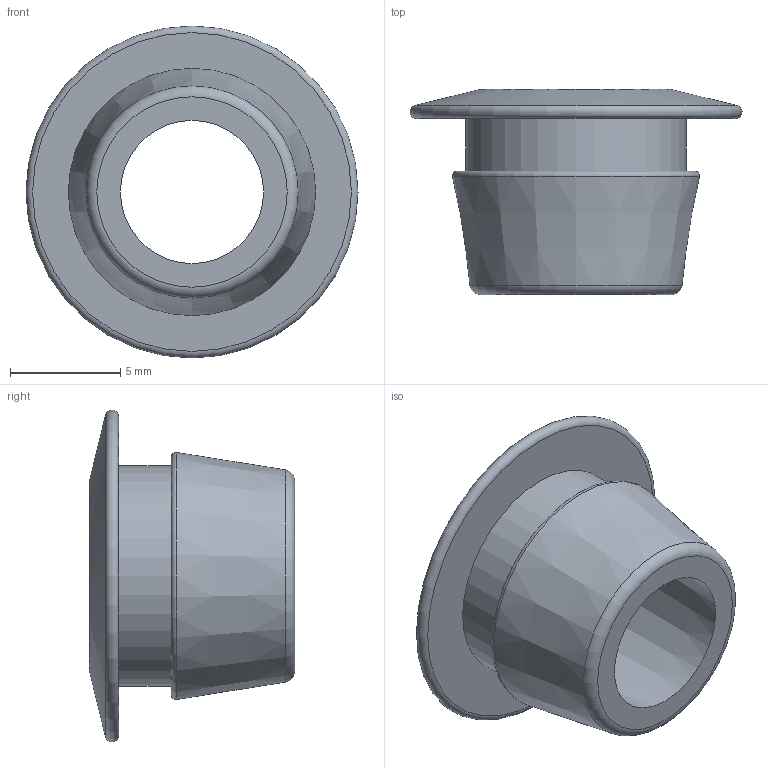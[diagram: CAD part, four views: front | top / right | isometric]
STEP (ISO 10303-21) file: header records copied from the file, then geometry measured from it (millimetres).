
FILE_DESCRIPTION (( 'STEP AP214' ), '1' );
FILE_NAME ('L16107.step', '2024-12-03T16:21:24', ( '' ), ( '' ), 'SwSTEP 2.0', 'SolidWorks 2023', '' );
FILE_SCHEMA (( 'AUTOMOTIVE_DESIGN' ));
Length unit declared in the file: millimetre
Products named in the file (1): L16107
Bounding box: 15.08 x 9.33 x 15.08 mm (x, y, z)
Volume: 493.1 mm3; surface area: 762.8 mm2
Topology: 1 solids, 1 shells, 12 faces, 22 edges, 14 vertices
Faces by surface type: torus 4, cone 3, plane 3, sphere 1, cylinder 1
Full cylindrical faces by diameter (mm): 10 x1
Entity records: 271 total; most frequent: DIRECTION 50, CARTESIAN_POINT 37, AXIS2_PLACEMENT_3D 25, ORIENTED_EDGE 24, EDGE_LOOP 24, FACE_OUTER_BOUND 18, EDGE_CURVE 12, VERTEX_POINT 12
